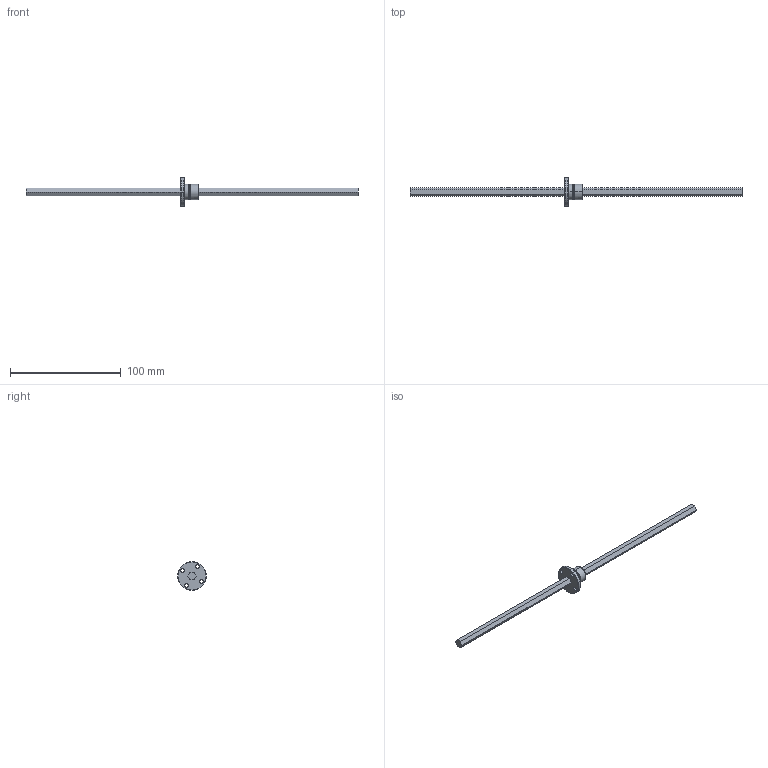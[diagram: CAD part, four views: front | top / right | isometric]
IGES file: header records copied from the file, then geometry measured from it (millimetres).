
Global section: file name: No Iges File Name specified; native system: AutoDesk Inventor R10; preprocessor: AutoDesk Inventor Iges Exporter R10; author: No Author specified; organization: No Organization specified; date: 20101224.162034; units: millimetre
Bounding box: 300 x 26 x 26 mm (x, y, z)
Surface area: 9600 mm2 (no closed solid volume)
Topology: 0 solids, 0 shells, 55 faces, 376 edges, 376 vertices
Faces by surface type: bspline 55
